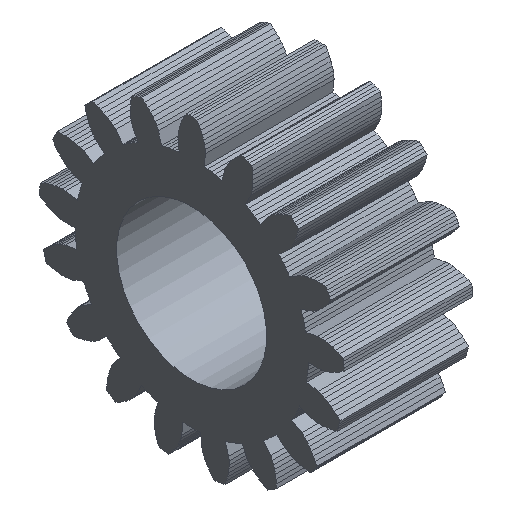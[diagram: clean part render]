
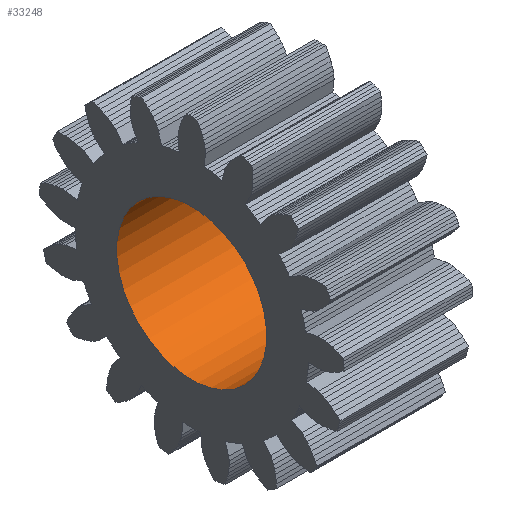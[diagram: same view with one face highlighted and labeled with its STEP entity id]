
A CAD part, isometric view. The second image highlights one B-rep face of the part: STEP entity #33248.
In plain terms, the highlighted cylindrical face has radius 7 mm (diameter 14 mm), a full revolution.
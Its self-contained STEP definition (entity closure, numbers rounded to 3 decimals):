
#72 = PLANE('',#73);
#73 = AXIS2_PLACEMENT_3D('',#74,#75,#76);
#74 = CARTESIAN_POINT('',(18.5,0.,0.));
#75 = DIRECTION('',(1.,0.,0.));
#76 = DIRECTION('',(0.,0.996,0.092));
#126 = PLANE('',#127);
#127 = AXIS2_PLACEMENT_3D('',#128,#129,#130);
#128 = CARTESIAN_POINT('',(6.5,0.,0.));
#129 = DIRECTION('',(1.,0.,0.));
#130 = DIRECTION('',(0.,0.996,0.092));
#12102 = EDGE_CURVE('',#12103,#12103,#12105,.T.);
#12103 = VERTEX_POINT('',#12104);
#12104 = CARTESIAN_POINT('',(6.5,6.97,0.646));
#12105 = SURFACE_CURVE('',#12106,(#12111,#12122),.PCURVE_S1.);
#12106 = CIRCLE('',#12107,7.);
#12107 = AXIS2_PLACEMENT_3D('',#12108,#12109,#12110);
#12108 = CARTESIAN_POINT('',(6.5,0.,0.));
#12109 = DIRECTION('',(-1.,0.,0.));
#12110 = DIRECTION('',(0.,0.996,0.092));
#12111 = PCURVE('',#126,#12112);
#12112 = DEFINITIONAL_REPRESENTATION('',(#12113),#12121);
#12113 = ( BOUNDED_CURVE() B_SPLINE_CURVE(2,(#12114,#12115,#12116,#12117
    ,#12118,#12119,#12120),.UNSPECIFIED.,.T.,.F.) 
B_SPLINE_CURVE_WITH_KNOTS((1,2,2,2,2,1),(-2.094,0.,
    2.094,4.189,6.283,8.378),
.UNSPECIFIED.) CURVE() GEOMETRIC_REPRESENTATION_ITEM() 
RATIONAL_B_SPLINE_CURVE((1.,0.5,1.,0.5,1.,0.5,1.)) REPRESENTATION_ITEM(
  '') );
#12114 = CARTESIAN_POINT('',(7.,0.));
#12115 = CARTESIAN_POINT('',(7.,-12.124));
#12116 = CARTESIAN_POINT('',(-3.5,-6.062));
#12117 = CARTESIAN_POINT('',(-14.,0.));
#12118 = CARTESIAN_POINT('',(-3.5,6.062));
#12119 = CARTESIAN_POINT('',(7.,12.124));
#12120 = CARTESIAN_POINT('',(7.,0.));
#12121 = ( GEOMETRIC_REPRESENTATION_CONTEXT(2) 
PARAMETRIC_REPRESENTATION_CONTEXT() REPRESENTATION_CONTEXT('2D SPACE',''
  ) );
#12122 = PCURVE('',#12123,#12128);
#12123 = CYLINDRICAL_SURFACE('',#12124,7.);
#12124 = AXIS2_PLACEMENT_3D('',#12125,#12126,#12127);
#12125 = CARTESIAN_POINT('',(6.,0.,0.));
#12126 = DIRECTION('',(-1.,0.,0.));
#12127 = DIRECTION('',(0.,0.996,0.092));
#12128 = DEFINITIONAL_REPRESENTATION('',(#12129),#12133);
#12129 = LINE('',#12130,#12131);
#12130 = CARTESIAN_POINT('',(-6.283,-0.5));
#12131 = VECTOR('',#12132,1.);
#12132 = DIRECTION('',(1.,-0.));
#12133 = ( GEOMETRIC_REPRESENTATION_CONTEXT(2) 
PARAMETRIC_REPRESENTATION_CONTEXT() REPRESENTATION_CONTEXT('2D SPACE',''
  ) );
#21847 = EDGE_CURVE('',#21848,#21848,#21850,.T.);
#21848 = VERTEX_POINT('',#21849);
#21849 = CARTESIAN_POINT('',(18.5,6.97,0.646));
#21850 = SURFACE_CURVE('',#21851,(#21856,#21867),.PCURVE_S1.);
#21851 = CIRCLE('',#21852,7.);
#21852 = AXIS2_PLACEMENT_3D('',#21853,#21854,#21855);
#21853 = CARTESIAN_POINT('',(18.5,0.,0.));
#21854 = DIRECTION('',(-1.,0.,0.));
#21855 = DIRECTION('',(0.,0.996,0.092));
#21856 = PCURVE('',#72,#21857);
#21857 = DEFINITIONAL_REPRESENTATION('',(#21858),#21866);
#21858 = ( BOUNDED_CURVE() B_SPLINE_CURVE(2,(#21859,#21860,#21861,#21862
    ,#21863,#21864,#21865),.UNSPECIFIED.,.T.,.F.) 
B_SPLINE_CURVE_WITH_KNOTS((1,2,2,2,2,1),(-2.094,0.,
    2.094,4.189,6.283,8.378),
.UNSPECIFIED.) CURVE() GEOMETRIC_REPRESENTATION_ITEM() 
RATIONAL_B_SPLINE_CURVE((1.,0.5,1.,0.5,1.,0.5,1.)) REPRESENTATION_ITEM(
  '') );
#21859 = CARTESIAN_POINT('',(7.,0.));
#21860 = CARTESIAN_POINT('',(7.,-12.124));
#21861 = CARTESIAN_POINT('',(-3.5,-6.062));
#21862 = CARTESIAN_POINT('',(-14.,0.));
#21863 = CARTESIAN_POINT('',(-3.5,6.062));
#21864 = CARTESIAN_POINT('',(7.,12.124));
#21865 = CARTESIAN_POINT('',(7.,0.));
#21866 = ( GEOMETRIC_REPRESENTATION_CONTEXT(2) 
PARAMETRIC_REPRESENTATION_CONTEXT() REPRESENTATION_CONTEXT('2D SPACE',''
  ) );
#21867 = PCURVE('',#12123,#21868);
#21868 = DEFINITIONAL_REPRESENTATION('',(#21869),#21873);
#21869 = LINE('',#21870,#21871);
#21870 = CARTESIAN_POINT('',(-6.283,-12.5));
#21871 = VECTOR('',#21872,1.);
#21872 = DIRECTION('',(1.,-0.));
#21873 = ( GEOMETRIC_REPRESENTATION_CONTEXT(2) 
PARAMETRIC_REPRESENTATION_CONTEXT() REPRESENTATION_CONTEXT('2D SPACE',''
  ) );
#33248 = ADVANCED_FACE('',(#33249),#12123,.F.);
#33249 = FACE_BOUND('',#33250,.T.);
#33250 = EDGE_LOOP('',(#33251,#33252,#33273,#33274));
#33251 = ORIENTED_EDGE('',*,*,#12102,.T.);
#33252 = ORIENTED_EDGE('',*,*,#33253,.T.);
#33253 = EDGE_CURVE('',#12103,#21848,#33254,.T.);
#33254 = SEAM_CURVE('',#33255,(#33259,#33266),.PCURVE_S1.);
#33255 = LINE('',#33256,#33257);
#33256 = CARTESIAN_POINT('',(6.,6.97,0.646));
#33257 = VECTOR('',#33258,1.);
#33258 = DIRECTION('',(1.,0.,0.));
#33259 = PCURVE('',#12123,#33260);
#33260 = DEFINITIONAL_REPRESENTATION('',(#33261),#33265);
#33261 = LINE('',#33262,#33263);
#33262 = CARTESIAN_POINT('',(-6.283,0.));
#33263 = VECTOR('',#33264,1.);
#33264 = DIRECTION('',(-0.,-1.));
#33265 = ( GEOMETRIC_REPRESENTATION_CONTEXT(2) 
PARAMETRIC_REPRESENTATION_CONTEXT() REPRESENTATION_CONTEXT('2D SPACE',''
  ) );
#33266 = PCURVE('',#12123,#33267);
#33267 = DEFINITIONAL_REPRESENTATION('',(#33268),#33272);
#33268 = LINE('',#33269,#33270);
#33269 = CARTESIAN_POINT('',(-0.,0.));
#33270 = VECTOR('',#33271,1.);
#33271 = DIRECTION('',(-0.,-1.));
#33272 = ( GEOMETRIC_REPRESENTATION_CONTEXT(2) 
PARAMETRIC_REPRESENTATION_CONTEXT() REPRESENTATION_CONTEXT('2D SPACE',''
  ) );
#33273 = ORIENTED_EDGE('',*,*,#21847,.F.);
#33274 = ORIENTED_EDGE('',*,*,#33253,.F.);
